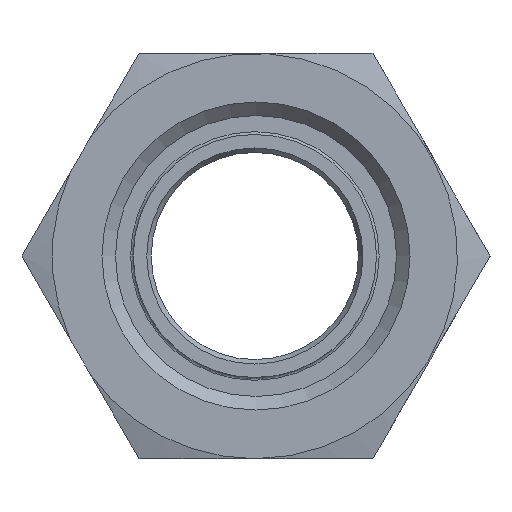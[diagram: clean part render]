
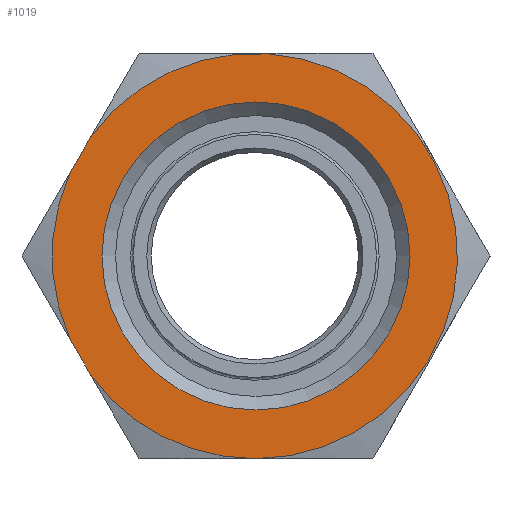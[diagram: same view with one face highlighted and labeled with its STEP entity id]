
A CAD part, left-side view. The second image highlights one B-rep face of the part: STEP entity #1019.
In plain terms, the highlighted planar face has unit normal (-1, 0, 0) as drawn and (0, 0, 1) by its records, which use the part's own axes.
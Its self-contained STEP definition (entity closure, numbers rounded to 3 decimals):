
#946=CARTESIAN_POINT('',(11.4,-0.085,16.0));
#947=VERTEX_POINT('',#946);
#948=CARTESIAN_POINT('',(0.,-0.085,16.0));
#949=DIRECTION('',(0.0,0.0,1.0));
#950=DIRECTION('',(-1.0,0.0,0.0));
#951=AXIS2_PLACEMENT_3D('',#948,#949,#950);
#952=CIRCLE('',#951,11.4);
#953=EDGE_CURVE('',#947,#947,#952,.T.);
#958=CARTESIAN_POINT('',(0.,-0.085,16.0));
#959=DIRECTION('',(0.0,0.0,1.0));
#960=DIRECTION('',(1.0,0.0,0.0));
#961=AXIS2_PLACEMENT_3D('',#958,#959,#960);
#962=PLANE('',#961);
#963=CARTESIAN_POINT('',(-8.75,12.184,16.0));
#964=VERTEX_POINT('',#963);
#965=CARTESIAN_POINT('',(-15.,0.076,16.0));
#966=VERTEX_POINT('',#965);
#967=CARTESIAN_POINT('',(0.0,0.0,16.0));
#968=DIRECTION('',(0.0,0.0,1.0));
#969=DIRECTION('',(0.0,1.0,0.0));
#970=AXIS2_PLACEMENT_3D('',#967,#968,#969);
#971=CIRCLE('',#970,15.);
#972=EDGE_CURVE('',#964,#966,#971,.T.);
#973=ORIENTED_EDGE('',*,*,#972,.T.);
#974=CARTESIAN_POINT('',(-15.,-0.076,16.0));
#975=VERTEX_POINT('',#974);
#976=CARTESIAN_POINT('',(-15.,-0.076,16.0));
#977=DIRECTION('',(0.0,1.0,0.0));
#978=VECTOR('',#977,0.151);
#979=LINE('',#976,#978);
#980=EDGE_CURVE('',#975,#966,#979,.T.);
#981=ORIENTED_EDGE('',*,*,#980,.F.);
#982=CARTESIAN_POINT('',(8.748,12.185,16.0));
#983=VERTEX_POINT('',#982);
#984=CARTESIAN_POINT('',(0.0,0.0,16.0));
#985=DIRECTION('',(0.0,0.0,1.0));
#986=DIRECTION('',(0.0,1.0,0.0));
#987=AXIS2_PLACEMENT_3D('',#984,#985,#986);
#988=CIRCLE('',#987,15.);
#989=EDGE_CURVE('',#975,#983,#988,.T.);
#990=ORIENTED_EDGE('',*,*,#989,.T.);
#991=CARTESIAN_POINT('',(6.178,13.668,16.0));
#992=VERTEX_POINT('',#991);
#993=CARTESIAN_POINT('',(6.178,13.668,16.0));
#994=DIRECTION('',(0.866,-0.5,0.0));
#995=VECTOR('',#994,2.967);
#996=LINE('',#993,#995);
#997=EDGE_CURVE('',#992,#983,#996,.T.);
#998=ORIENTED_EDGE('',*,*,#997,.F.);
#999=CARTESIAN_POINT('',(-6.177,13.669,16.0));
#1000=VERTEX_POINT('',#999);
#1001=CARTESIAN_POINT('',(0.0,0.0,16.0));
#1002=DIRECTION('',(0.0,0.0,1.0));
#1003=DIRECTION('',(0.0,1.0,0.0));
#1004=AXIS2_PLACEMENT_3D('',#1001,#1002,#1003);
#1005=CIRCLE('',#1004,15.);
#1006=EDGE_CURVE('',#992,#1000,#1005,.T.);
#1007=ORIENTED_EDGE('',*,*,#1006,.T.);
#1008=CARTESIAN_POINT('',(-8.75,12.184,16.0));
#1009=DIRECTION('',(0.866,0.5,0.0));
#1010=VECTOR('',#1009,2.971);
#1011=LINE('',#1008,#1010);
#1012=EDGE_CURVE('',#964,#1000,#1011,.T.);
#1013=ORIENTED_EDGE('',*,*,#1012,.F.);
#1014=EDGE_LOOP('',(#973,#981,#990,#998,#1007,#1013));
#1015=FACE_OUTER_BOUND('',#1014,.T.);
#1016=ORIENTED_EDGE('',*,*,#953,.F.);
#1017=EDGE_LOOP('',(#1016));
#1018=FACE_BOUND('',#1017,.T.);
#1019=ADVANCED_FACE('',(#1015,#1018),#962,.T.);
